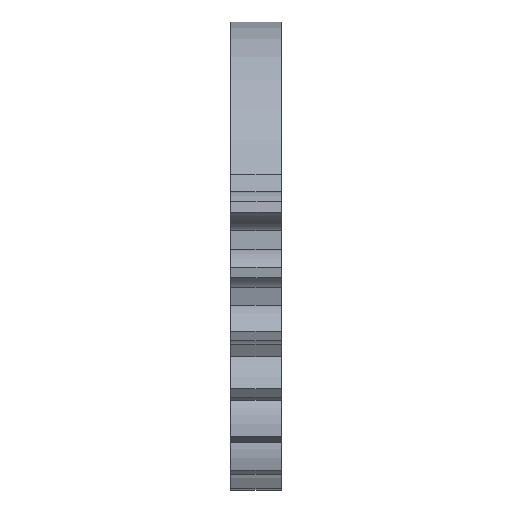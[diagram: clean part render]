
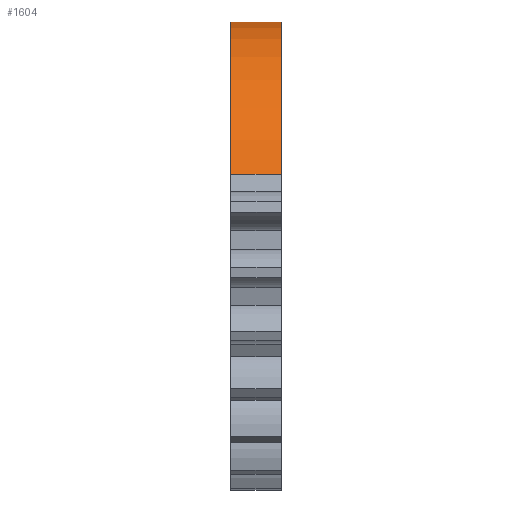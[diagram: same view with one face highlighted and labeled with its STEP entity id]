
A CAD part, left-side view. The second image highlights one B-rep face of the part: STEP entity #1604.
In plain terms, the highlighted cylindrical face has radius 26 mm (diameter 52 mm), a partial arc.
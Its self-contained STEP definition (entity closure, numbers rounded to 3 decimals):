
#63 = CARTESIAN_POINT ( 'NONE',  ( -29.862, 4.5, 8.911 ) ) ;
#66 = AXIS2_PLACEMENT_3D ( 'NONE', #1020, #565, #1471 ) ;
#228 = VECTOR ( 'NONE', #1369, 1000. ) ;
#394 = ORIENTED_EDGE ( 'NONE', *, *, #2119, .T. ) ;
#396 = DIRECTION ( 'NONE',  ( 0., 1., 0. ) ) ;
#490 = CIRCLE ( 'NONE', #2037, 26. ) ;
#505 = VERTEX_POINT ( 'NONE', #2232 ) ;
#537 = FACE_OUTER_BOUND ( 'NONE', #1029, .T. ) ;
#550 = DIRECTION ( 'NONE',  ( 0., 0., -1. ) ) ;
#565 = DIRECTION ( 'NONE',  ( 0., 1., 0. ) ) ;
#673 = ORIENTED_EDGE ( 'NONE', *, *, #1455, .T. ) ;
#688 = CARTESIAN_POINT ( 'NONE',  ( 20.102, -1.5, 7.692 ) ) ;
#708 = CARTESIAN_POINT ( 'NONE',  ( 20.102, 4.5, 7.692 ) ) ;
#831 = ORIENTED_EDGE ( 'NONE', *, *, #1153, .F. ) ;
#922 = VERTEX_POINT ( 'NONE', #948 ) ;
#948 = CARTESIAN_POINT ( 'NONE',  ( 20.102, 4.5, 7.692 ) ) ;
#1002 = CIRCLE ( 'NONE', #66, 26. ) ;
#1005 = LINE ( 'NONE', #2277, #228 ) ;
#1020 = CARTESIAN_POINT ( 'NONE',  ( -5.055, -1.5, 1.125 ) ) ;
#1029 = EDGE_LOOP ( 'NONE', ( #394, #831, #1389, #673 ) ) ;
#1042 = DIRECTION ( 'NONE',  ( 0., -1., 0. ) ) ;
#1153 = EDGE_CURVE ( 'NONE', #922, #2024, #1242, .T. ) ;
#1242 = LINE ( 'NONE', #708, #2371 ) ;
#1369 = DIRECTION ( 'NONE',  ( 0., -1., 0. ) ) ;
#1389 = ORIENTED_EDGE ( 'NONE', *, *, #2234, .F. ) ;
#1455 = EDGE_CURVE ( 'NONE', #1972, #505, #1005, .T. ) ;
#1471 = DIRECTION ( 'NONE',  ( 0., 0., 1. ) ) ;
#1604 = ADVANCED_FACE ( 'NONE', ( #537 ), #1977, .T. ) ;
#1828 = CARTESIAN_POINT ( 'NONE',  ( -5.055, 4.5, 1.125 ) ) ;
#1846 = DIRECTION ( 'NONE',  ( 0., 0., 1. ) ) ;
#1972 = VERTEX_POINT ( 'NONE', #63 ) ;
#1977 = CYLINDRICAL_SURFACE ( 'NONE', #2233, 26. ) ;
#2024 = VERTEX_POINT ( 'NONE', #688 ) ;
#2037 = AXIS2_PLACEMENT_3D ( 'NONE', #2049, #396, #1846 ) ;
#2049 = CARTESIAN_POINT ( 'NONE',  ( -5.055, 4.5, 1.125 ) ) ;
#2119 = EDGE_CURVE ( 'NONE', #505, #2024, #1002, .T. ) ;
#2173 = DIRECTION ( 'NONE',  ( 0., -1., 0. ) ) ;
#2232 = CARTESIAN_POINT ( 'NONE',  ( -29.862, -1.5, 8.911 ) ) ;
#2233 = AXIS2_PLACEMENT_3D ( 'NONE', #1828, #1042, #550 ) ;
#2234 = EDGE_CURVE ( 'NONE', #1972, #922, #490, .T. ) ;
#2277 = CARTESIAN_POINT ( 'NONE',  ( -29.862, 4.5, 8.911 ) ) ;
#2371 = VECTOR ( 'NONE', #2173, 1000. ) ;
